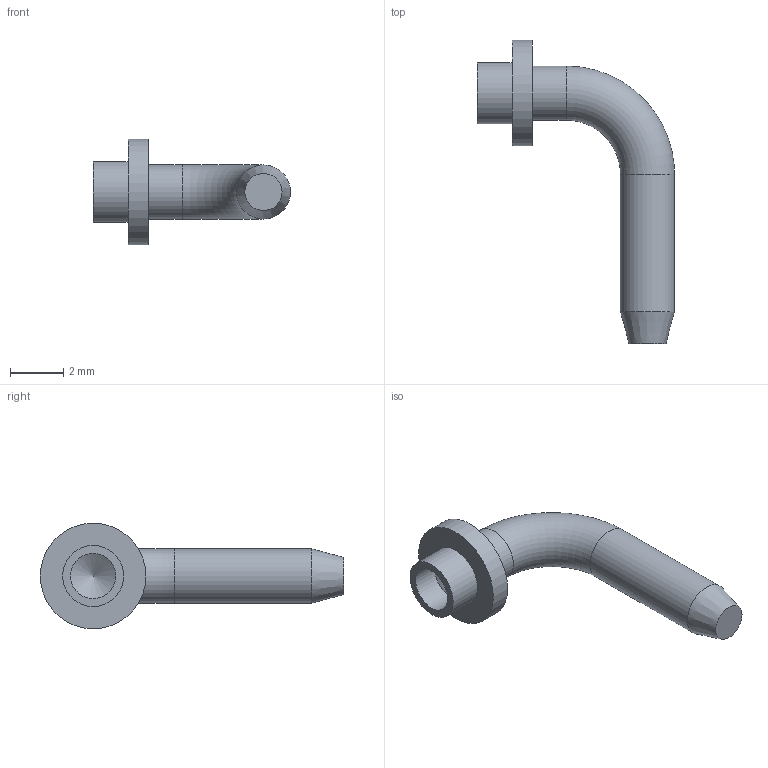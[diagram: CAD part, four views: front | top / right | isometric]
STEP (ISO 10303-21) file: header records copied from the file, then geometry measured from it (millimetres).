
FILE_DESCRIPTION(/* description */ (''),/* implementation_level */ '2;1');
FILE_NAME(/* name */ 'Z:\STEP folder\460152301.ipt.stp',/* time_stamp */ '2016-12-21T13:03:46+00:00',/* author */ ('Paul Karlsons'),/* organization */ (''),/* preprocessor_version */ 'ST-DEVELOPER v15.2',/* originating_system */ 'Autodesk Inventor 2014',/* authorisation */ '');
FILE_SCHEMA (('AUTOMOTIVE_DESIGN { 1 0 10303 214 3 1 1 }'));
Length unit declared in the file: millimetre
Products named in the file (1): 460152301
Bounding box: 7.39 x 11.38 x 3.96 mm (x, y, z)
Volume: 51.1 mm3; surface area: 125.7 mm2
Topology: 1 solids, 1 shells, 12 faces, 20 edges, 12 vertices
Faces by surface type: cylinder 5, plane 4, cone 2, torus 1
Full cylindrical faces by diameter (mm): 1.7 x1, 2.03 x2, 2.286 x1, 3.96 x1
Entity records: 255 total; most frequent: DIRECTION 48, CARTESIAN_POINT 35, AXIS2_PLACEMENT_3D 24, EDGE_LOOP 22, ORIENTED_EDGE 22, FACE_BOUND 12, ADVANCED_FACE 12, CIRCLE 11
